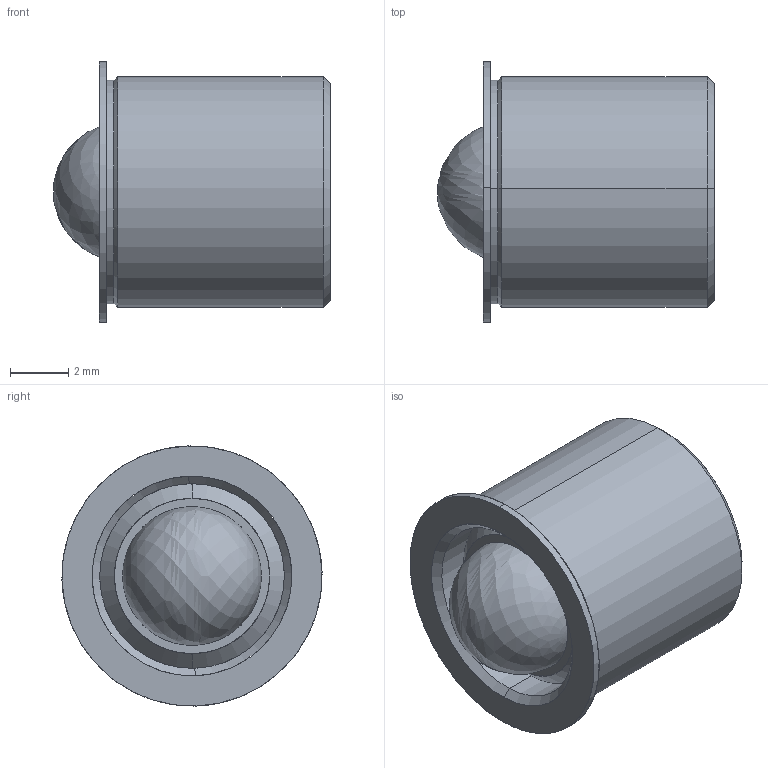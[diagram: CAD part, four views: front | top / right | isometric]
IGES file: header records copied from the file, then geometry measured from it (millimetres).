
Start section: SolidWorks IGES file using analytic representation for surfaces
Global section: file name: C:\Users\workpc\Desktop\KMA Solidworks\TSB250-80-375_312-AA.IGS; native system: SolidWorks 2013; preprocessor: SolidWorks 2013; author: workpc; date: 130313.181237; units: inch
Bounding box: 9.52 x 8.94 x 8.94 mm (x, y, z)
Surface area: 551.3 mm2 (no closed solid volume)
Topology: 0 solids, 0 shells, 33 faces, 406 edges, 402 vertices
Faces by surface type: revolution 22, bspline 11
